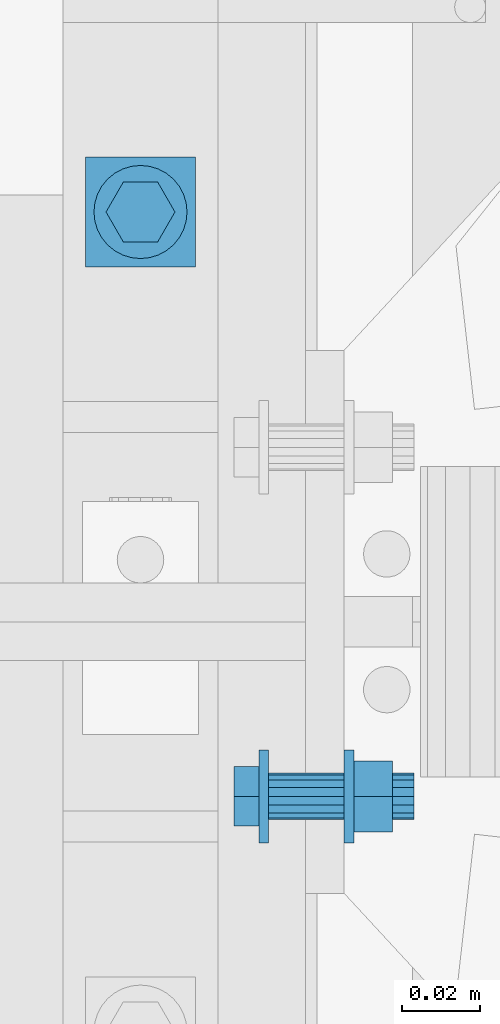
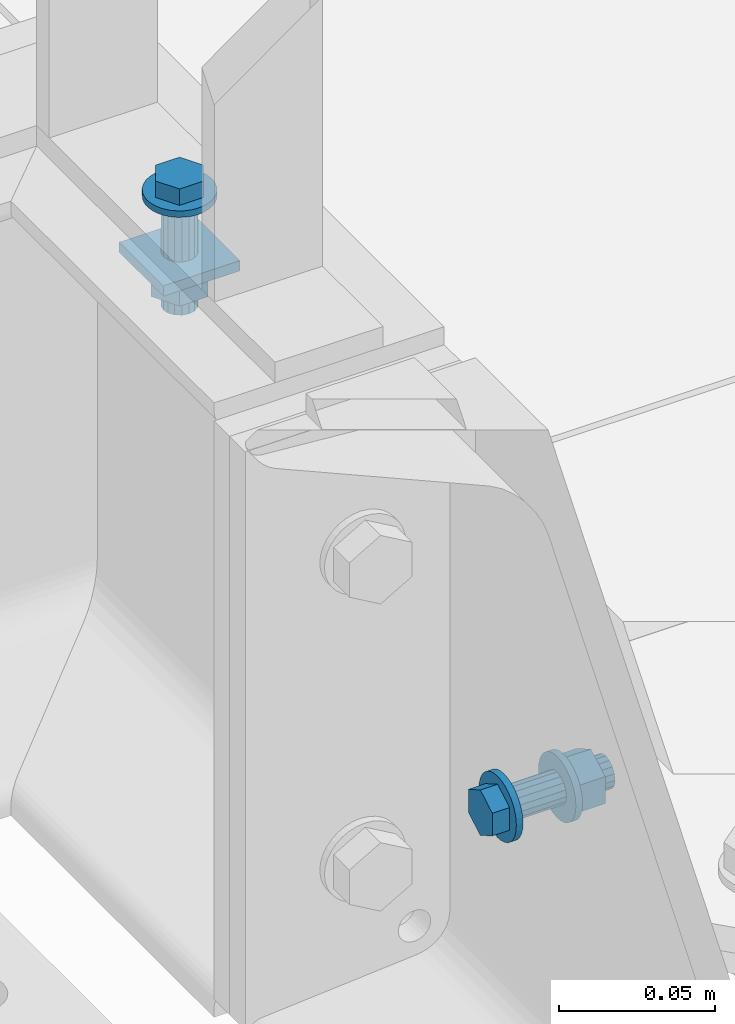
# One storey, part 109 of 145: 2 mechanical fasteners.
"""IFC2X3 building model written with IfcOpenShell, lengths in millimetres."""

from ifc_helpers import new_model, entity, si_unit, converted_unit, origin_with_axes, place, context, project, spatial, faceted_brep, element, save


model = new_model("IFC2X3")

# Units and contexts
model_context = context("Model", 3, precision=1e-09, world=origin_with_axes())
ifc_project = project(units=[si_unit("LENGTHUNIT", "METRE", prefix="MILLI"), si_unit("AREAUNIT", "SQUARE_METRE"), si_unit("VOLUMEUNIT", "CUBIC_METRE"), converted_unit("PLANEANGLEUNIT", "DEGREE", entity("IfcPlaneAngleMeasure", 0.01745329), si_unit("PLANEANGLEUNIT", "RADIAN"), dimensions=[0, 0, 0, 0, 0, 0, 0])], contexts=[model_context])

# Site, building, storey
site_placement = place(None, origin_with_axes())
site = spatial("IfcSite", under=ifc_project, at=site_placement, Name="BZ1 Grund- und Mittelschule 85716 Unterschlei?heim", CompositionType="ELEMENT")
building_placement = place(site_placement, origin_with_axes())
building = spatial("IfcBuilding", under=site, at=building_placement, Name="Struktur 1", CompositionType="ELEMENT")
storey_placement = place(building_placement, origin_with_axes())
storey = spatial("IfcBuildingStorey", under=building, at=storey_placement, Name="Default Storey", CompositionType="ELEMENT", Elevation=0.0)

# Mechanical fasteners
mechanical_fastener_1_placement = place(None, origin_with_axes())
element("IfcMechanicalFastener", 1, at=mechanical_fastener_1_placement, inside=storey, ObjectType="-", NominalDiameter=12.0, NominalLength=45.0, context=model_context, shape_type="Brep", body=[
    faceted_brep([(20393.34472732, -1601.33533333, 1621.636364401), (20393.34472732, -1601.33533333, 1624.136364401), (20391.003643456, -1601.104756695, 1624.136364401), (20391.003643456, -1601.104756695, 1621.636364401), (20388.752526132, -1600.42188772, 1624.136364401), (20388.752526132, -1600.42188772, 1621.636364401), (20386.677884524, -1599.312968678, 1624.136364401), (20386.677884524, -1599.312968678, 1621.636364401), (20384.859445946, -1597.820614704, 1624.136364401), (20384.859445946, -1597.820614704, 1621.636364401), (20383.367091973, -1596.002176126, 1624.136364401), (20383.367091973, -1596.002176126, 1621.636364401), (20382.25817293, -1593.927534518, 1624.136364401), (20382.25817293, -1593.927534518, 1621.636364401), (20381.575303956, -1591.676417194, 1624.136364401), (20381.575303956, -1591.676417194, 1621.636364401), (20381.34472732, -1589.33533333, 1624.136364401), (20381.34472732, -1589.33533333, 1621.636364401), (20381.575303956, -1586.994249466, 1624.136364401), (20381.575303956, -1586.994249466, 1621.636364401), (20382.25817293, -1584.743132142, 1624.136364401), (20382.25817293, -1584.743132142, 1621.636364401), (20383.367091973, -1582.668490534, 1624.136364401), (20383.367091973, -1582.668490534, 1621.636364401), (20384.859445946, -1580.850051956, 1624.136364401), (20384.859445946, -1580.850051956, 1621.636364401), (20386.677884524, -1579.357697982, 1624.136364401), (20386.677884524, -1579.357697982, 1621.636364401), (20388.752526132, -1578.24877894, 1624.136364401), (20388.752526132, -1578.24877894, 1621.636364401), (20391.003643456, -1577.565909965, 1624.136364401), (20391.003643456, -1577.565909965, 1621.636364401), (20393.34472732, -1577.33533333, 1624.136364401), (20393.34472732, -1577.33533333, 1621.636364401), (20395.685811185, -1577.565909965, 1624.136364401), (20395.685811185, -1577.565909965, 1621.636364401), (20397.936928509, -1578.24877894, 1624.136364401), (20397.936928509, -1578.24877894, 1621.636364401), (20400.011570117, -1579.357697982, 1624.136364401), (20400.011570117, -1579.357697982, 1621.636364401), (20401.830008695, -1580.850051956, 1624.136364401), (20401.830008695, -1580.850051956, 1621.636364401), (20403.322362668, -1582.668490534, 1624.136364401), (20403.322362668, -1582.668490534, 1621.636364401), (20404.43128171, -1584.743132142, 1624.136364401), (20404.43128171, -1584.743132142, 1621.636364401), (20405.114150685, -1586.994249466, 1624.136364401), (20405.114150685, -1586.994249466, 1621.636364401), (20405.34472732, -1589.33533333, 1624.136364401), (20405.34472732, -1589.33533333, 1621.636364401), (20405.114150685, -1591.676417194, 1624.136364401), (20405.114150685, -1591.676417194, 1621.636364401), (20404.43128171, -1593.927534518, 1624.136364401), (20404.43128171, -1593.927534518, 1621.636364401), (20403.322362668, -1596.002176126, 1624.136364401), (20403.322362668, -1596.002176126, 1621.636364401), (20401.830008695, -1597.820614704, 1624.136364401), (20401.830008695, -1597.820614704, 1621.636364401), (20400.011570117, -1599.312968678, 1624.136364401), (20400.011570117, -1599.312968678, 1621.636364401), (20397.936928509, -1600.42188772, 1624.136364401), (20397.936928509, -1600.42188772, 1621.636364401), (20395.685811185, -1601.104756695, 1624.136364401), (20395.685811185, -1601.104756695, 1621.636364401)], [[[0, 1, 2, 3]], [[3, 2, 4, 5]], [[5, 4, 6, 7]], [[7, 6, 8, 9]], [[9, 8, 10, 11]], [[11, 10, 12, 13]], [[13, 12, 14, 15]], [[15, 14, 16, 17]], [[17, 16, 18, 19]], [[19, 18, 20, 21]], [[21, 20, 22, 23]], [[23, 22, 24, 25]], [[25, 24, 26, 27]], [[27, 26, 28, 29]], [[29, 28, 30, 31]], [[31, 30, 32, 33]], [[33, 32, 34, 35]], [[35, 34, 36, 37]], [[37, 36, 38, 39]], [[39, 38, 40, 41]], [[41, 40, 42, 43]], [[43, 42, 44, 45]], [[45, 44, 46, 47]], [[47, 46, 48, 49]], [[49, 48, 50, 51]], [[51, 50, 52, 53]], [[53, 52, 54, 55]], [[55, 54, 56, 57]], [[57, 56, 58, 59]], [[59, 58, 60, 61]], [[61, 60, 62, 63]], [[63, 62, 1, 0]], [[2, 1, 62, 60, 58, 56, 54, 52, 50, 48, 46, 44, 42, 40, 38, 36, 34, 32, 30, 28, 26, 24, 22, 20, 18, 16, 14, 12, 10, 8, 6, 4]], [[63, 0, 3, 5, 7, 9, 11, 13, 15, 17, 19, 21, 23, 25, 27, 29, 31, 33, 35, 37, 39, 41, 43, 45, 47, 49, 51, 53, 55, 57, 59, 61]]]),
    faceted_brep([(20388.90222732, -1581.640697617, 1630.536364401), (20388.90222732, -1581.640697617, 1624.136364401), (20384.45972732, -1589.33533333, 1624.136364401), (20384.45972732, -1589.33533333, 1630.536364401), (20388.90222732, -1597.029969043, 1624.136364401), (20388.90222732, -1597.029969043, 1630.536364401), (20397.78722732, -1597.029969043, 1624.136364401), (20397.78722732, -1597.029969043, 1630.536364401), (20402.22972732, -1589.33533333, 1624.136364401), (20402.22972732, -1589.33533333, 1630.536364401), (20397.78722732, -1581.640697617, 1624.136364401), (20397.78722732, -1581.640697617, 1630.536364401)], [[[0, 1, 2, 3]], [[3, 2, 4, 5]], [[5, 4, 6, 7]], [[7, 6, 8, 9]], [[9, 8, 10, 11]], [[11, 10, 1, 0]], [[3, 5, 7, 9, 11, 0]], [[2, 1, 10, 8, 6, 4]]]),
    faceted_brep([(20393.34472732, -1595.33533333, 1599.953542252), (20393.34472732, -1595.33533333, 1621.636364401), (20391.048626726, -1594.878610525, 1621.636364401), (20391.048626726, -1594.878610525, 1599.953542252), (20389.102086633, -1593.577974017, 1621.636364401), (20389.102086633, -1593.577974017, 1599.953542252), (20387.801450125, -1591.631433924, 1621.636364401), (20387.801450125, -1591.631433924, 1599.953542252), (20387.34472732, -1589.33533333, 1621.636364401), (20387.34472732, -1589.33533333, 1599.953542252), (20387.801450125, -1587.039232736, 1621.636364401), (20387.801450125, -1587.039232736, 1599.953542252), (20389.102086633, -1585.092692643, 1621.636364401), (20389.102086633, -1585.092692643, 1599.953542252), (20391.048626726, -1583.792056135, 1621.636364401), (20391.048626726, -1583.792056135, 1599.953542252), (20393.34472732, -1583.33533333, 1621.636364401), (20393.34472732, -1583.33533333, 1599.953542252), (20395.640827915, -1583.792056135, 1621.636364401), (20395.640827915, -1583.792056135, 1599.953542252), (20397.587368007, -1585.092692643, 1621.636364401), (20397.587368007, -1585.092692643, 1599.953542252), (20398.888004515, -1587.039232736, 1621.636364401), (20398.888004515, -1587.039232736, 1599.953542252), (20399.34472732, -1589.33533333, 1621.636364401), (20399.34472732, -1589.33533333, 1599.953542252), (20398.888004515, -1591.631433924, 1621.636364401), (20398.888004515, -1591.631433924, 1599.953542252), (20397.587368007, -1593.577974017, 1621.636364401), (20397.587368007, -1593.577974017, 1599.953542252), (20395.640827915, -1594.878610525, 1621.636364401), (20395.640827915, -1594.878610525, 1599.953542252)], [[[0, 1, 2, 3]], [[3, 2, 4, 5]], [[5, 4, 6, 7]], [[7, 6, 8, 9]], [[9, 8, 10, 11]], [[11, 10, 12, 13]], [[13, 12, 14, 15]], [[15, 14, 16, 17]], [[17, 16, 18, 19]], [[19, 18, 20, 21]], [[21, 20, 22, 23]], [[23, 22, 24, 25]], [[25, 24, 26, 27]], [[27, 26, 28, 29]], [[29, 28, 30, 31]], [[31, 30, 1, 0]], [[2, 1, 30, 28, 26, 24, 22, 20, 18, 16, 14, 12, 10, 8, 6, 4]], [[31, 0, 3, 5, 7, 9, 11, 13, 15, 17, 19, 21, 23, 25, 27, 29]]]),
    faceted_brep([(20379.202591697, -1575.193197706, 1599.953542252), (20379.202591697, -1575.193197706, 1595.953542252), (20379.202591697, -1603.477468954, 1595.953542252), (20379.202591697, -1603.477468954, 1599.953542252), (20407.486862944, -1603.477468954, 1595.953542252), (20407.486862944, -1603.477468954, 1599.953542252), (20407.486862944, -1575.193197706, 1595.953542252), (20407.486862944, -1575.193197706, 1599.953542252)], [[[0, 1, 2, 3]], [[3, 2, 4, 5]], [[5, 4, 6, 7]], [[7, 6, 1, 0]], [[3, 5, 7, 0]], [[2, 1, 6, 4]]]),
    faceted_brep([(20388.06972732, -1580.19876532, 1595.953542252), (20388.06972732, -1580.19876532, 1585.953542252), (20382.79472732, -1589.33533333, 1585.953542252), (20382.79472732, -1589.33533333, 1595.953542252), (20388.06972732, -1598.47190134, 1585.953542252), (20388.06972732, -1598.47190134, 1595.953542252), (20398.61972732, -1598.47190134, 1585.953542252), (20398.61972732, -1598.47190134, 1595.953542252), (20403.89472732, -1589.33533333, 1585.953542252), (20403.89472732, -1589.33533333, 1595.953542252), (20398.61972732, -1580.19876532, 1585.953542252), (20398.61972732, -1580.19876532, 1595.953542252)], [[[0, 1, 2, 3]], [[3, 2, 4, 5]], [[5, 4, 6, 7]], [[7, 6, 8, 9]], [[9, 8, 10, 11]], [[11, 10, 1, 0]], [[3, 5, 7, 9, 11, 0]], [[2, 1, 10, 8, 6, 4]]]),
    faceted_brep([(20393.34472732, -1595.33533333, 1579.136364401), (20393.34472732, -1595.33533333, 1585.953542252), (20391.048626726, -1594.878610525, 1585.953542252), (20391.048626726, -1594.878610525, 1579.136364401), (20389.102086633, -1593.577974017, 1585.953542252), (20389.102086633, -1593.577974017, 1579.136364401), (20387.801450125, -1591.631433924, 1585.953542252), (20387.801450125, -1591.631433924, 1579.136364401), (20387.34472732, -1589.33533333, 1585.953542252), (20387.34472732, -1589.33533333, 1579.136364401), (20387.801450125, -1587.039232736, 1585.953542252), (20387.801450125, -1587.039232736, 1579.136364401), (20389.102086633, -1585.092692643, 1585.953542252), (20389.102086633, -1585.092692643, 1579.136364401), (20391.048626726, -1583.792056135, 1585.953542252), (20391.048626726, -1583.792056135, 1579.136364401), (20393.34472732, -1583.33533333, 1585.953542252), (20393.34472732, -1583.33533333, 1579.136364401), (20395.640827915, -1583.792056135, 1585.953542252), (20395.640827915, -1583.792056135, 1579.136364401), (20397.587368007, -1585.092692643, 1585.953542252), (20397.587368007, -1585.092692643, 1579.136364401), (20398.888004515, -1587.039232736, 1585.953542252), (20398.888004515, -1587.039232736, 1579.136364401), (20399.34472732, -1589.33533333, 1585.953542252), (20399.34472732, -1589.33533333, 1579.136364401), (20398.888004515, -1591.631433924, 1585.953542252), (20398.888004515, -1591.631433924, 1579.136364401), (20397.587368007, -1593.577974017, 1585.953542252), (20397.587368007, -1593.577974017, 1579.136364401), (20395.640827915, -1594.878610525, 1585.953542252), (20395.640827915, -1594.878610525, 1579.136364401)], [[[0, 1, 2, 3]], [[3, 2, 4, 5]], [[5, 4, 6, 7]], [[7, 6, 8, 9]], [[9, 8, 10, 11]], [[11, 10, 12, 13]], [[13, 12, 14, 15]], [[15, 14, 16, 17]], [[17, 16, 18, 19]], [[19, 18, 20, 21]], [[21, 20, 22, 23]], [[23, 22, 24, 25]], [[25, 24, 26, 27]], [[27, 26, 28, 29]], [[29, 28, 30, 31]], [[31, 30, 1, 0]], [[2, 1, 30, 28, 26, 24, 22, 20, 18, 16, 14, 12, 10, 8, 6, 4]], [[31, 0, 3, 5, 7, 9, 11, 13, 15, 17, 19, 21, 23, 25, 27, 29]]]),
])
mechanical_fastener_2_placement = place(None, origin_with_axes())
element("IfcMechanicalFastener", 2, at=mechanical_fastener_2_placement, inside=storey, ObjectType="-", NominalDiameter=12.0, NominalLength=40.0, context=model_context, shape_type="Brep", body=[
    faceted_brep([(20423.84472732, -1728.002, 1463.6363644), (20426.34472732, -1728.002, 1463.6363644), (20426.34472732, -1728.232576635, 1461.295280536), (20423.84472732, -1728.232576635, 1461.295280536), (20426.34472732, -1728.91544561, 1459.044163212), (20423.84472732, -1728.91544561, 1459.044163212), (20426.34472732, -1730.024364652, 1456.969521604), (20423.84472732, -1730.024364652, 1456.969521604), (20426.34472732, -1731.516718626, 1455.151083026), (20423.84472732, -1731.516718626, 1455.151083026), (20426.34472732, -1733.335157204, 1453.658729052), (20423.84472732, -1733.335157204, 1453.658729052), (20426.34472732, -1735.409798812, 1452.54981001), (20423.84472732, -1735.409798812, 1452.54981001), (20426.34472732, -1737.660916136, 1451.866941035), (20423.84472732, -1737.660916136, 1451.866941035), (20426.34472732, -1740.002, 1451.6363644), (20423.84472732, -1740.002, 1451.6363644), (20426.34472732, -1742.343083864, 1451.866941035), (20423.84472732, -1742.343083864, 1451.866941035), (20426.34472732, -1744.594201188, 1452.54981001), (20423.84472732, -1744.594201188, 1452.54981001), (20426.34472732, -1746.668842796, 1453.658729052), (20423.84472732, -1746.668842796, 1453.658729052), (20426.34472732, -1748.487281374, 1455.151083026), (20423.84472732, -1748.487281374, 1455.151083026), (20426.34472732, -1749.979635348, 1456.969521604), (20423.84472732, -1749.979635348, 1456.969521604), (20426.34472732, -1751.08855439, 1459.044163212), (20423.84472732, -1751.08855439, 1459.044163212), (20426.34472732, -1751.771423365, 1461.295280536), (20423.84472732, -1751.771423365, 1461.295280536), (20426.34472732, -1752.002, 1463.6363644), (20423.84472732, -1752.002, 1463.6363644), (20426.34472732, -1751.771423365, 1465.977448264), (20423.84472732, -1751.771423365, 1465.977448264), (20426.34472732, -1751.08855439, 1468.228565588), (20423.84472732, -1751.08855439, 1468.228565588), (20426.34472732, -1749.979635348, 1470.303207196), (20423.84472732, -1749.979635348, 1470.303207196), (20426.34472732, -1748.487281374, 1472.121645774), (20423.84472732, -1748.487281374, 1472.121645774), (20426.34472732, -1746.668842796, 1473.613999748), (20423.84472732, -1746.668842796, 1473.613999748), (20426.34472732, -1744.594201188, 1474.72291879), (20423.84472732, -1744.594201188, 1474.72291879), (20426.34472732, -1742.343083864, 1475.405787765), (20423.84472732, -1742.343083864, 1475.405787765), (20426.34472732, -1740.002, 1475.6363644), (20423.84472732, -1740.002, 1475.6363644), (20426.34472732, -1737.660916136, 1475.405787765), (20423.84472732, -1737.660916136, 1475.405787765), (20426.34472732, -1735.409798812, 1474.72291879), (20423.84472732, -1735.409798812, 1474.72291879), (20426.34472732, -1733.335157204, 1473.613999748), (20423.84472732, -1733.335157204, 1473.613999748), (20426.34472732, -1731.516718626, 1472.121645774), (20423.84472732, -1731.516718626, 1472.121645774), (20426.34472732, -1730.024364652, 1470.303207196), (20423.84472732, -1730.024364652, 1470.303207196), (20426.34472732, -1728.91544561, 1468.228565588), (20423.84472732, -1728.91544561, 1468.228565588), (20426.34472732, -1728.232576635, 1465.977448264), (20423.84472732, -1728.232576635, 1465.977448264)], [[[0, 1, 2, 3]], [[3, 2, 4, 5]], [[5, 4, 6, 7]], [[7, 6, 8, 9]], [[9, 8, 10, 11]], [[11, 10, 12, 13]], [[13, 12, 14, 15]], [[15, 14, 16, 17]], [[17, 16, 18, 19]], [[19, 18, 20, 21]], [[21, 20, 22, 23]], [[23, 22, 24, 25]], [[25, 24, 26, 27]], [[27, 26, 28, 29]], [[29, 28, 30, 31]], [[31, 30, 32, 33]], [[33, 32, 34, 35]], [[35, 34, 36, 37]], [[37, 36, 38, 39]], [[39, 38, 40, 41]], [[41, 40, 42, 43]], [[43, 42, 44, 45]], [[45, 44, 46, 47]], [[47, 46, 48, 49]], [[49, 48, 50, 51]], [[51, 50, 52, 53]], [[53, 52, 54, 55]], [[55, 54, 56, 57]], [[57, 56, 58, 59]], [[59, 58, 60, 61]], [[61, 60, 62, 63]], [[63, 62, 1, 0]], [[0, 3, 5, 7, 9, 11, 13, 15, 17, 19, 21, 23, 25, 27, 29, 31, 33, 35, 37, 39, 41, 43, 45, 47, 49, 51, 53, 55, 57, 59, 61, 63]], [[1, 62, 60, 58, 56, 54, 52, 50, 48, 46, 44, 42, 40, 38, 36, 34, 32, 30, 28, 26, 24, 22, 20, 18, 16, 14, 12, 10, 8, 6, 4, 2]]]),
    faceted_brep([(20423.84472732, -1747.696635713, 1459.1938644), (20417.44472732, -1747.696635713, 1459.1938644), (20417.44472732, -1740.002, 1454.7513644), (20423.84472732, -1740.002, 1454.7513644), (20417.44472732, -1732.307364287, 1459.1938644), (20423.84472732, -1732.307364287, 1459.1938644), (20417.44472732, -1732.307364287, 1468.0788644), (20423.84472732, -1732.307364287, 1468.0788644), (20417.44472732, -1740.002, 1472.5213644), (20423.84472732, -1740.002, 1472.5213644), (20417.44472732, -1747.696635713, 1468.0788644), (20423.84472732, -1747.696635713, 1468.0788644)], [[[0, 1, 2, 3]], [[3, 2, 4, 5]], [[5, 4, 6, 7]], [[7, 6, 8, 9]], [[9, 8, 10, 11]], [[11, 10, 1, 0]], [[4, 2, 1, 10, 8, 6]], [[0, 3, 5, 7, 9, 11]]]),
    faceted_brep([(20426.34472732, -1734.002, 1463.6363644), (20445.84472732, -1734.002, 1463.6363644), (20445.84472732, -1734.458722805, 1461.340263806), (20426.34472732, -1734.458722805, 1461.340263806), (20445.84472732, -1735.759359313, 1459.393723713), (20426.34472732, -1735.759359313, 1459.393723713), (20445.84472732, -1737.705899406, 1458.093087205), (20426.34472732, -1737.705899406, 1458.093087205), (20445.84472732, -1740.002, 1457.6363644), (20426.34472732, -1740.002, 1457.6363644), (20445.84472732, -1742.298100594, 1458.093087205), (20426.34472732, -1742.298100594, 1458.093087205), (20445.84472732, -1744.244640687, 1459.393723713), (20426.34472732, -1744.244640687, 1459.393723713), (20445.84472732, -1745.545277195, 1461.340263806), (20426.34472732, -1745.545277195, 1461.340263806), (20445.84472732, -1746.002, 1463.6363644), (20426.34472732, -1746.002, 1463.6363644), (20445.84472732, -1745.545277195, 1465.932464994), (20426.34472732, -1745.545277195, 1465.932464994), (20445.84472732, -1744.244640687, 1467.879005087), (20426.34472732, -1744.244640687, 1467.879005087), (20445.84472732, -1742.298100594, 1469.179641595), (20426.34472732, -1742.298100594, 1469.179641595), (20445.84472732, -1740.002, 1469.6363644), (20426.34472732, -1740.002, 1469.6363644), (20445.84472732, -1737.705899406, 1469.179641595), (20426.34472732, -1737.705899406, 1469.179641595), (20445.84472732, -1735.759359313, 1467.879005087), (20426.34472732, -1735.759359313, 1467.879005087), (20445.84472732, -1734.458722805, 1465.932464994), (20426.34472732, -1734.458722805, 1465.932464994)], [[[0, 1, 2, 3]], [[3, 2, 4, 5]], [[5, 4, 6, 7]], [[7, 6, 8, 9]], [[9, 8, 10, 11]], [[11, 10, 12, 13]], [[13, 12, 14, 15]], [[15, 14, 16, 17]], [[17, 16, 18, 19]], [[19, 18, 20, 21]], [[21, 20, 22, 23]], [[23, 22, 24, 25]], [[25, 24, 26, 27]], [[27, 26, 28, 29]], [[29, 28, 30, 31]], [[31, 30, 1, 0]], [[0, 3, 5, 7, 9, 11, 13, 15, 17, 19, 21, 23, 25, 27, 29, 31]], [[1, 30, 28, 26, 24, 22, 20, 18, 16, 14, 12, 10, 8, 6, 4, 2]]]),
    faceted_brep([(20445.84472732, -1728.002, 1463.6363644), (20448.34472732, -1728.002, 1463.6363644), (20448.34472732, -1728.232576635, 1461.295280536), (20445.84472732, -1728.232576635, 1461.295280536), (20448.34472732, -1728.91544561, 1459.044163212), (20445.84472732, -1728.91544561, 1459.044163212), (20448.34472732, -1730.024364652, 1456.969521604), (20445.84472732, -1730.024364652, 1456.969521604), (20448.34472732, -1731.516718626, 1455.151083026), (20445.84472732, -1731.516718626, 1455.151083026), (20448.34472732, -1733.335157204, 1453.658729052), (20445.84472732, -1733.335157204, 1453.658729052), (20448.34472732, -1735.409798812, 1452.54981001), (20445.84472732, -1735.409798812, 1452.54981001), (20448.34472732, -1737.660916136, 1451.866941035), (20445.84472732, -1737.660916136, 1451.866941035), (20448.34472732, -1740.002, 1451.6363644), (20445.84472732, -1740.002, 1451.6363644), (20448.34472732, -1742.343083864, 1451.866941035), (20445.84472732, -1742.343083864, 1451.866941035), (20448.34472732, -1744.594201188, 1452.54981001), (20445.84472732, -1744.594201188, 1452.54981001), (20448.34472732, -1746.668842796, 1453.658729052), (20445.84472732, -1746.668842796, 1453.658729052), (20448.34472732, -1748.487281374, 1455.151083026), (20445.84472732, -1748.487281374, 1455.151083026), (20448.34472732, -1749.979635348, 1456.969521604), (20445.84472732, -1749.979635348, 1456.969521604), (20448.34472732, -1751.08855439, 1459.044163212), (20445.84472732, -1751.08855439, 1459.044163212), (20448.34472732, -1751.771423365, 1461.295280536), (20445.84472732, -1751.771423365, 1461.295280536), (20448.34472732, -1752.002, 1463.6363644), (20445.84472732, -1752.002, 1463.6363644), (20448.34472732, -1751.771423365, 1465.977448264), (20445.84472732, -1751.771423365, 1465.977448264), (20448.34472732, -1751.08855439, 1468.228565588), (20445.84472732, -1751.08855439, 1468.228565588), (20448.34472732, -1749.979635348, 1470.303207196), (20445.84472732, -1749.979635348, 1470.303207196), (20448.34472732, -1748.487281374, 1472.121645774), (20445.84472732, -1748.487281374, 1472.121645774), (20448.34472732, -1746.668842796, 1473.613999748), (20445.84472732, -1746.668842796, 1473.613999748), (20448.34472732, -1744.594201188, 1474.72291879), (20445.84472732, -1744.594201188, 1474.72291879), (20448.34472732, -1742.343083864, 1475.405787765), (20445.84472732, -1742.343083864, 1475.405787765), (20448.34472732, -1740.002, 1475.6363644), (20445.84472732, -1740.002, 1475.6363644), (20448.34472732, -1737.660916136, 1475.405787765), (20445.84472732, -1737.660916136, 1475.405787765), (20448.34472732, -1735.409798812, 1474.72291879), (20445.84472732, -1735.409798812, 1474.72291879), (20448.34472732, -1733.335157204, 1473.613999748), (20445.84472732, -1733.335157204, 1473.613999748), (20448.34472732, -1731.516718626, 1472.121645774), (20445.84472732, -1731.516718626, 1472.121645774), (20448.34472732, -1730.024364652, 1470.303207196), (20445.84472732, -1730.024364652, 1470.303207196), (20448.34472732, -1728.91544561, 1468.228565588), (20445.84472732, -1728.91544561, 1468.228565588), (20448.34472732, -1728.232576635, 1465.977448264), (20445.84472732, -1728.232576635, 1465.977448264)], [[[0, 1, 2, 3]], [[3, 2, 4, 5]], [[5, 4, 6, 7]], [[7, 6, 8, 9]], [[9, 8, 10, 11]], [[11, 10, 12, 13]], [[13, 12, 14, 15]], [[15, 14, 16, 17]], [[17, 16, 18, 19]], [[19, 18, 20, 21]], [[21, 20, 22, 23]], [[23, 22, 24, 25]], [[25, 24, 26, 27]], [[27, 26, 28, 29]], [[29, 28, 30, 31]], [[31, 30, 32, 33]], [[33, 32, 34, 35]], [[35, 34, 36, 37]], [[37, 36, 38, 39]], [[39, 38, 40, 41]], [[41, 40, 42, 43]], [[43, 42, 44, 45]], [[45, 44, 46, 47]], [[47, 46, 48, 49]], [[49, 48, 50, 51]], [[51, 50, 52, 53]], [[53, 52, 54, 55]], [[55, 54, 56, 57]], [[57, 56, 58, 59]], [[59, 58, 60, 61]], [[61, 60, 62, 63]], [[63, 62, 1, 0]], [[0, 3, 5, 7, 9, 11, 13, 15, 17, 19, 21, 23, 25, 27, 29, 31, 33, 35, 37, 39, 41, 43, 45, 47, 49, 51, 53, 55, 57, 59, 61, 63]], [[1, 62, 60, 58, 56, 54, 52, 50, 48, 46, 44, 42, 40, 38, 36, 34, 32, 30, 28, 26, 24, 22, 20, 18, 16, 14, 12, 10, 8, 6, 4, 2]]]),
    faceted_brep([(20458.34472732, -1749.13856801, 1458.3613644), (20448.34472732, -1749.13856801, 1458.3613644), (20448.34472732, -1740.002, 1453.0863644), (20458.34472732, -1740.002, 1453.0863644), (20448.34472732, -1730.86543199, 1458.3613644), (20458.34472732, -1730.86543199, 1458.3613644), (20448.34472732, -1730.86543199, 1468.9113644), (20458.34472732, -1730.86543199, 1468.9113644), (20448.34472732, -1740.002, 1474.1863644), (20458.34472732, -1740.002, 1474.1863644), (20448.34472732, -1749.13856801, 1468.9113644), (20458.34472732, -1749.13856801, 1468.9113644)], [[[0, 1, 2, 3]], [[3, 2, 4, 5]], [[5, 4, 6, 7]], [[7, 6, 8, 9]], [[9, 8, 10, 11]], [[11, 10, 1, 0]], [[4, 2, 1, 10, 8, 6]], [[0, 3, 5, 7, 9, 11]]]),
    faceted_brep([(20458.34472732, -1734.002, 1463.6363644), (20463.84472732, -1734.002, 1463.6363644), (20463.84472732, -1734.458722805, 1461.340263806), (20458.34472732, -1734.458722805, 1461.340263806), (20463.84472732, -1735.759359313, 1459.393723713), (20458.34472732, -1735.759359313, 1459.393723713), (20463.84472732, -1737.705899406, 1458.093087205), (20458.34472732, -1737.705899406, 1458.093087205), (20463.84472732, -1740.002, 1457.6363644), (20458.34472732, -1740.002, 1457.6363644), (20463.84472732, -1742.298100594, 1458.093087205), (20458.34472732, -1742.298100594, 1458.093087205), (20463.84472732, -1744.244640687, 1459.393723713), (20458.34472732, -1744.244640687, 1459.393723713), (20463.84472732, -1745.545277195, 1461.340263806), (20458.34472732, -1745.545277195, 1461.340263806), (20463.84472732, -1746.002, 1463.6363644), (20458.34472732, -1746.002, 1463.6363644), (20463.84472732, -1745.545277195, 1465.932464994), (20458.34472732, -1745.545277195, 1465.932464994), (20463.84472732, -1744.244640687, 1467.879005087), (20458.34472732, -1744.244640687, 1467.879005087), (20463.84472732, -1742.298100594, 1469.179641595), (20458.34472732, -1742.298100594, 1469.179641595), (20463.84472732, -1740.002, 1469.6363644), (20458.34472732, -1740.002, 1469.6363644), (20463.84472732, -1737.705899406, 1469.179641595), (20458.34472732, -1737.705899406, 1469.179641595), (20463.84472732, -1735.759359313, 1467.879005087), (20458.34472732, -1735.759359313, 1467.879005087), (20463.84472732, -1734.458722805, 1465.932464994), (20458.34472732, -1734.458722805, 1465.932464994)], [[[0, 1, 2, 3]], [[3, 2, 4, 5]], [[5, 4, 6, 7]], [[7, 6, 8, 9]], [[9, 8, 10, 11]], [[11, 10, 12, 13]], [[13, 12, 14, 15]], [[15, 14, 16, 17]], [[17, 16, 18, 19]], [[19, 18, 20, 21]], [[21, 20, 22, 23]], [[23, 22, 24, 25]], [[25, 24, 26, 27]], [[27, 26, 28, 29]], [[29, 28, 30, 31]], [[31, 30, 1, 0]], [[0, 3, 5, 7, 9, 11, 13, 15, 17, 19, 21, 23, 25, 27, 29, 31]], [[1, 30, 28, 26, 24, 22, 20, 18, 16, 14, 12, 10, 8, 6, 4, 2]]]),
])

save(model, "model.ifc")
